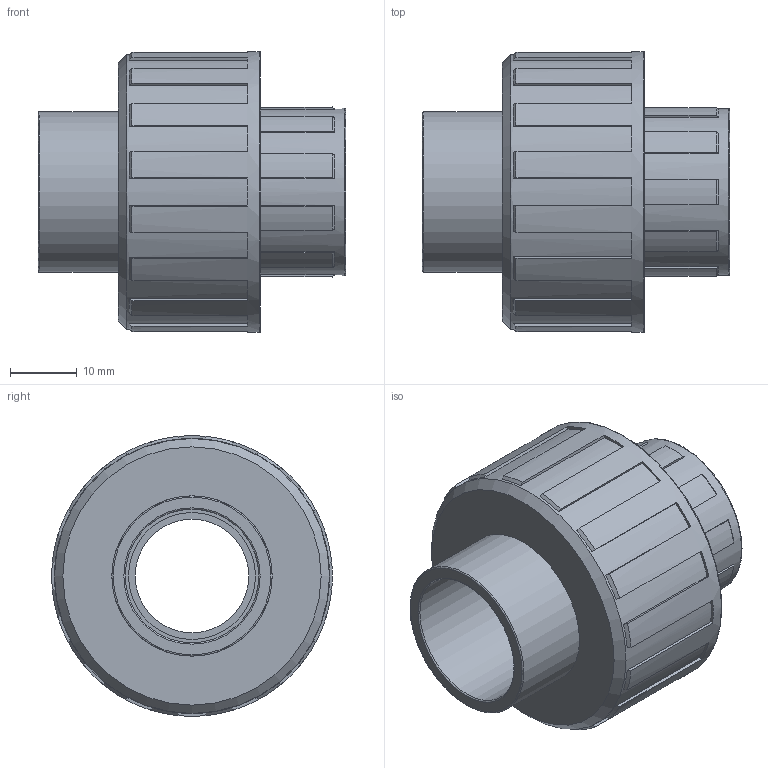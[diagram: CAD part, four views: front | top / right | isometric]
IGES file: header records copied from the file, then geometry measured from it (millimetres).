
Global section: file name: 050802020005.ipt; native system: Autodesk Inventor 2015; preprocessor: unknown; author: KIM; date: 20171207.164944; units: millimetre
Bounding box: 46 x 42 x 42 mm (x, y, z)
Volume: 27873.7 mm3; surface area: 9856.6 mm2
Topology: 1 solids, 1 shells, 125 faces, 366 edges, 248 vertices
Faces by surface type: plane 75, cone 27, cylinder 14, revolution 9
Full cylindrical faces by diameter (mm): 24 x1, 25 x1, 41.16 x1, 42 x1
